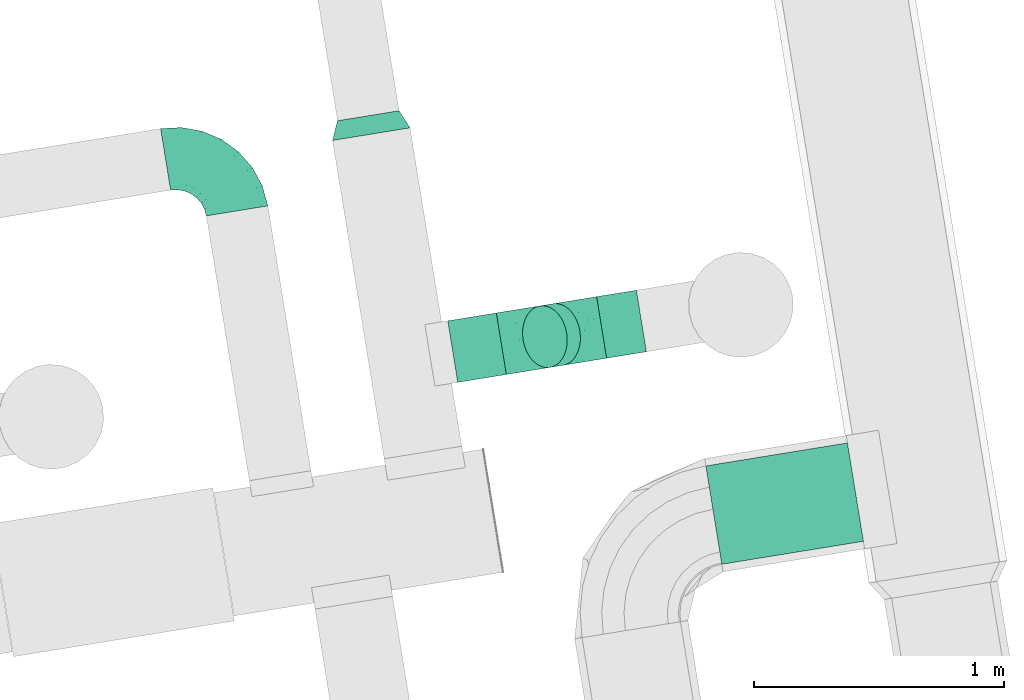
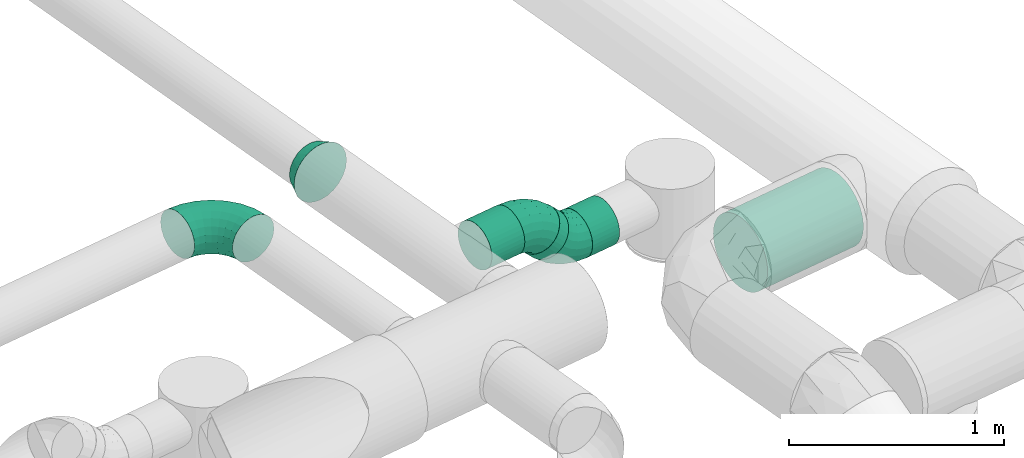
# One storey, part 22 of 39: 4 flow fittings, 4 flow segments.
"""IFC2X3 building model written with IfcOpenShell, lengths in millimetres."""

from ifc_helpers import new_model, entity, si_unit, converted_unit, derived_unit, direction, frame, frame_2d, origin, origin_with_axes, origin_2d_with_axis, place, context, subcontext, project, spatial, circle, extrude, faceted_brep, source, transform, mapped, material, type_object, element, save


model = new_model("IFC2X3")

# Units and contexts
model_context = context("Model", 3, precision=0.01, world=origin(), true_north=direction((6.12323399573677e-17, 1.0)))
plan_context = context("Plan", 3, precision=1e-05, world=origin_with_axes())
body_context = subcontext(model_context, "Body", "Model", "MODEL_VIEW")
ifc_project = project(units=[converted_unit("PLANEANGLEUNIT", "DEGREE", entity("IfcPositiveLengthMeasure", 0.0174532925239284), si_unit("PLANEANGLEUNIT", "RADIAN"), dimensions=[0, 0, 0, 0, 0, 0, 0]), si_unit("AREAUNIT", "SQUARE_METRE"), si_unit("LENGTHUNIT", "METRE", prefix="MILLI"), si_unit("MASSUNIT", "GRAM", prefix="KILO"), si_unit("POWERUNIT", "WATT"), si_unit("PRESSUREUNIT", "PASCAL", prefix="KILO"), si_unit("FORCEUNIT", "NEWTON", prefix="KILO"), si_unit("ELECTRICVOLTAGEUNIT", "VOLT"), si_unit("ELECTRICCURRENTUNIT", "AMPERE"), si_unit("THERMODYNAMICTEMPERATUREUNIT", "DEGREE_CELSIUS"), si_unit("TIMEUNIT", "SECOND"), si_unit("VOLUMEUNIT", "CUBIC_METRE"), derived_unit("LINEARVELOCITYUNIT", [(si_unit("LENGTHUNIT", "METRE"), 1), (si_unit("TIMEUNIT", "SECOND"), -1)]), derived_unit("VOLUMETRICFLOWRATEUNIT", [(si_unit("VOLUMEUNIT", "CUBIC_METRE"), 1), (si_unit("TIMEUNIT", "SECOND"), -1)]), derived_unit("THERMALTRANSMITTANCEUNIT", [(si_unit("POWERUNIT", "WATT"), 1), (si_unit("THERMODYNAMICTEMPERATUREUNIT", "KELVIN"), -1), (si_unit("AREAUNIT", "SQUARE_METRE"), -1)]), derived_unit("SOUNDPRESSUREUNIT", [(si_unit("PRESSUREUNIT", "PASCAL"), 1)])], contexts=[model_context, plan_context])

# Site, building, storey
site_placement = place(None, frame((-0.00071070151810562, 0.00438415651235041, 0.0), z_axis=(0.0, 0.0, 1.0), x_axis=(-0.160236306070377, 0.987078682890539, 0.0)))
site = spatial("IfcSite", under=ifc_project, at=site_placement, Name="Default", CompositionType="ELEMENT")
building_placement = place(site_placement, origin_with_axes())
building = spatial("IfcBuilding", under=site, at=building_placement, CompositionType="ELEMENT")
storey_placement = place(building_placement, frame((0.0, 0.0, 50999.9999999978), z_axis=(0.0, 0.0, 1.0), x_axis=(1.0, 0.0, 0.0)))
storey = spatial("IfcBuildingStorey", under=building, at=storey_placement, Name="Nivå D", CompositionType="ELEMENT", Elevation=50999.9999999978)

# Flow fittings
ifc_material_1 = material(Name="Material_Duct")
duct_fitting_type_1 = type_object("IfcDuctFittingType", Name="magicirc_reduction_001:magicirc_reduction_001", PredefinedType="NOTDEFINED", material=ifc_material_1)
shared_shape_1 = source(origin(), body_context, "Body", "Brep", [
    faceted_brep([(75.0, -125.0, 0.0), (75.0, -118.882064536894, -38.6271242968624), (75.0, -101.127124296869, -73.473156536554), (75.0, -73.4731565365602, -101.127124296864), (75.0, -38.627124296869, -118.882064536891), (75.0, 0.0, -125.0), (75.0, 38.6271242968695, -118.882064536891), (75.0, 73.4731565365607, -101.127124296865), (75.0, 101.12712429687, -73.4731565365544), (75.0, 118.882064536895, -38.6271242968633), (75.0, 125.0, 0.0), (75.0, 118.882064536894, 38.6271242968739), (75.0, 101.127124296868, 73.4731565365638), (75.0, 73.4731565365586, 101.127124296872), (75.0, 38.6271242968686, 118.882064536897), (75.0, 0.0, 125.0), (75.0, -38.6271242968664, 118.882064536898), (75.0, -73.4731565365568, 101.127124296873), (75.0, -101.127124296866, 73.4731565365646), (75.0, -118.882064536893, 38.6271242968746), (0.0, 157.499999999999, 0.0), (0.0, 152.133317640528, -40.7639996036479), (0.0, 136.399001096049, -78.7500000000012), (0.0, 111.369318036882, -111.369318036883), (0.0, 78.7500000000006, -136.399001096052), (0.0, 40.7639996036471, -152.133317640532), (0.0, 0.0, -157.500000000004), (0.0, -40.7639996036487, -152.133317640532), (0.0, -78.7500000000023, -136.399001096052), (0.0, -111.369318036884, -111.369318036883), (0.0, -136.399001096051, -78.7500000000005), (0.0, -152.133317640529, -40.7639996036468), (0.0, -157.500000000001, 0.0), (0.0, -152.133317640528, 40.7639996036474), (0.0, -136.399001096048, 78.7499999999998), (0.0, -111.36931803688, 111.36931803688), (0.0, -78.7499999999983, 136.399001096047), (0.0, -40.7639996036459, 152.133317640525), (0.0, 0.0, 157.499999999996), (0.0, 40.7639996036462, 152.133317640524), (0.0, 78.7499999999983, 136.399001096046), (0.0, 111.369318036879, 111.369318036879), (0.0, 136.399001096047, 78.7499999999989), (0.0, 152.133317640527, 40.7639996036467)], [[[0, 1, 2, 3, 4, 5, 6, 7, 8, 9, 10, 11, 12, 13, 14, 15, 16, 17, 18, 19]], [[20, 21, 22, 23, 24, 25, 26, 27, 28, 29, 30, 31, 32, 33, 34, 35, 36, 37, 38, 39, 40, 41, 42, 43]], [[22, 9, 8]], [[21, 10, 9]], [[24, 7, 6]], [[5, 25, 6]], [[8, 7, 23]], [[26, 25, 5]], [[9, 22, 21]], [[21, 20, 10]], [[8, 23, 22]], [[7, 24, 23]], [[24, 6, 25]], [[27, 5, 4]], [[3, 28, 4]], [[1, 0, 31]], [[2, 1, 30]], [[29, 3, 2]], [[28, 27, 4]], [[28, 3, 29]], [[2, 30, 29]], [[1, 31, 30]], [[32, 31, 0]], [[5, 27, 26]], [[34, 19, 18]], [[33, 0, 19]], [[36, 17, 16]], [[15, 37, 16]], [[18, 17, 35]], [[38, 37, 15]], [[19, 34, 33]], [[33, 32, 0]], [[18, 35, 34]], [[17, 36, 35]], [[36, 16, 37]], [[39, 15, 14]], [[13, 40, 14]], [[11, 10, 43]], [[12, 11, 42]], [[41, 13, 12]], [[40, 39, 14]], [[40, 13, 41]], [[12, 42, 41]], [[11, 43, 42]], [[20, 43, 10]], [[15, 39, 38]]]),
])
flow_fitting_1_placement = place(storey_placement, frame((774581.890918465, -600012.580498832, 3310.0), z_axis=(0.0, 0.0, 1.0), x_axis=(1.0, 0.0, 0.0)))
element("IfcFlowFitting", 1, at=flow_fitting_1_placement, inside=storey, type_object=duct_fitting_type_1, material=ifc_material_1, Name="magicirc_reduction_001:magicirc_reduction_001", ObjectType="magicirc_reduction_001:magicirc_reduction_001", context=body_context, shape_type="MappedRepresentation", body=[
    mapped(shared_shape_1, transform((0.0, 0.0, 0.0), scale=1.0)),
])
ifc_material_2 = material(Name="<Unnamed>")
duct_fitting_type_2 = type_object("IfcDuctFittingType", Name="magicirc_elbow_full_radius_1:magicirc_elbow_full_radius_001", PredefinedType="NOTDEFINED", material=ifc_material_2)
shared_shape_2 = source(origin(), body_context, "Body", "Brep", [
    faceted_brep([(-30.3945198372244, -117.794480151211, 0.0), (-31.5880698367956, -111.79409910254, 38.6271242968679), (-103.553390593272, -118.882064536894, 38.6271242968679), (-103.553390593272, -125.0, 0.0), (-35.0518868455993, -94.3803150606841, 73.4731565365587), (-103.553390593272, -101.127124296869, 73.4731565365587), (-40.4469083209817, -67.2577105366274, 101.127124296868), (-103.553390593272, -73.4731565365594, 101.127124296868), (-47.2450319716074, -33.0812350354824, 118.882064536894), (-103.553390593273, -38.6271242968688, 118.882064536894), (-54.7808100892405, 4.80367989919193, 125.0), (-103.553390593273, 0.0, 125.0), (-62.3165882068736, 42.6885948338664, 118.882064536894), (-103.553390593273, 38.6271242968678, 118.882064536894), (-69.1147118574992, 76.8650703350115, 101.127124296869), (-103.553390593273, 73.4731565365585, 101.127124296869), (-74.5097333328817, 103.987674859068, 73.4731565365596), (-103.553390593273, 101.127124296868, 73.4731565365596), (-77.9735503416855, 121.401458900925, 38.6271242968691), (-103.553390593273, 118.882064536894, 38.6271242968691), (-79.1671003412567, 127.401839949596, 0.0), (-103.553390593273, 125.0, 0.0), (-77.9735503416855, 121.401458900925, -38.6271242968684), (-103.553390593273, 118.882064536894, -38.6271242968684), (-74.5097333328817, 103.987674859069, -73.473156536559), (-103.553390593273, 101.127124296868, -73.473156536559), (-69.1147118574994, 76.8650703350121, -101.127124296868), (-103.553390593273, 73.4731565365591, -101.127124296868), (-62.3165882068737, 42.6885948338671, -118.882064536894), (-103.553390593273, 38.6271242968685, -118.882064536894), (-54.7808100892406, 4.80367989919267, -125.0), (-103.553390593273, 0.0, -125.0), (-47.2450319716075, -33.0812350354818, -118.882064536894), (-103.553390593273, -38.6271242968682, -118.882064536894), (-40.4469083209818, -67.2577105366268, -101.127124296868), (-103.553390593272, -73.4731565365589, -101.127124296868), (-35.0518868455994, -94.3803150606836, -73.4731565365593), (-103.553390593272, -101.127124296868, -73.4731565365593), (-31.5880698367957, -111.79409910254, -38.6271242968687), (-103.553390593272, -118.882064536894, -38.6271242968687), (39.952896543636, -96.4548246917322, 0.0), (37.6116640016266, -90.8025893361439, 38.6271242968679), (30.8171425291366, -74.3991634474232, 73.4731565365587), (20.2344272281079, -48.8502286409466, 101.127124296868), (6.89942800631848, -16.656692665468, 118.882064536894), (-7.88253250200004, 19.030116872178, 125.0), (-22.6644930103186, 54.7169264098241, 118.882064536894), (-35.9994922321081, 86.9104623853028, 101.127124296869), (-46.5822075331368, 112.45939719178, 73.4731565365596), (-53.376729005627, 128.862823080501, 38.6271242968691), (-55.7179615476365, 134.515058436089, 0.0), (-53.3767290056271, 128.862823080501, -38.6271242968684), (-46.582207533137, 112.45939719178, -73.473156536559), (-35.9994922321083, 86.9104623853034, -101.127124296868), (-22.6644930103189, 54.7169264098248, -118.882064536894), (-7.88253250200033, 19.0301168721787, -125.0), (6.89942800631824, -16.6566926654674, -118.882064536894), (20.2344272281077, -48.8502286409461, -101.127124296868), (30.8171425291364, -74.3991634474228, -73.4731565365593), (37.6116640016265, -90.8025893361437, -38.6271242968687), (104.785446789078, -61.801104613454, 0.0), (101.386503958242, -56.7142271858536, 38.6271242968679), (91.5223876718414, -41.9515339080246, 73.4731565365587), (76.1586663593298, -18.9581000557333, 101.127124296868), (56.7992481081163, 10.0153168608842, 118.882064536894), (35.3391676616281, 42.1325969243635, 125.0), (13.8790872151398, 74.2498769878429, 118.882064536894), (-5.48033103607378, 103.22329390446, 101.127124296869), (-20.8440523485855, 126.216727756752, 73.4731565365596), (-30.7081686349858, 140.979421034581, 38.6271242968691), (-34.1071114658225, 146.066298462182, 0.0), (-30.7081686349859, 140.979421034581, -38.6271242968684), (-20.8440523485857, 126.216727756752, -73.473156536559), (-5.48033103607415, 103.223293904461, -101.127124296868), (13.8790872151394, 74.2498769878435, -118.882064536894), (35.3391676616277, 42.1325969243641, -125.0), (56.799248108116, 10.0153168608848, -118.882064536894), (76.1586663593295, -18.9581000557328, -101.127124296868), (91.5223876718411, -41.9515339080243, -73.4731565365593), (101.386503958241, -56.7142271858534, -38.6271242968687), (161.611652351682, -15.1650429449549, 0.0), (157.285618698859, -10.8390092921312, 38.6271242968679), (144.730980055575, 1.7156293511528, 73.4731565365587), (125.176671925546, 21.2699374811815, 101.127124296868), (100.536806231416, 45.9098031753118, 118.882064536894), (73.2233047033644, 73.223304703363, 125.0), (45.9098031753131, 100.536806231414, 118.882064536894), (21.2699374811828, 125.176671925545, 101.127124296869), (1.71562935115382, 144.730980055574, 73.4731565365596), (-10.8390092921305, 157.285618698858, 38.6271242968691), (-15.1650429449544, 161.611652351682, 0.0), (-10.8390092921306, 157.285618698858, -38.6271242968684), (1.71562935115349, 144.730980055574, -73.473156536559), (21.2699374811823, 125.176671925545, -101.127124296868), (45.9098031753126, 100.536806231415, -118.882064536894), (73.2233047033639, 73.2233047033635, -125.0), (100.536806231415, 45.9098031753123, -118.882064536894), (125.176671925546, 21.269937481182, -101.127124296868), (144.730980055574, 1.71562935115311, -73.4731565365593), (157.285618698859, -10.8390092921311, -38.6271242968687)], [[[0, 1, 2, 3]], [[1, 4, 5, 2]], [[4, 6, 7, 5]], [[6, 8, 9, 7]], [[8, 10, 11, 9]], [[10, 12, 13, 11]], [[12, 14, 15, 13]], [[14, 16, 17, 15]], [[16, 18, 19, 17]], [[18, 20, 21, 19]], [[20, 22, 23, 21]], [[22, 24, 25, 23]], [[24, 26, 27, 25]], [[26, 28, 29, 27]], [[28, 30, 31, 29]], [[30, 32, 33, 31]], [[32, 34, 35, 33]], [[34, 36, 37, 35]], [[36, 38, 39, 37]], [[38, 0, 3, 39]], [[40, 41, 1, 0]], [[41, 42, 4, 1]], [[42, 43, 6, 4]], [[43, 44, 8, 6]], [[44, 45, 10, 8]], [[45, 46, 12, 10]], [[46, 47, 14, 12]], [[47, 48, 16, 14]], [[48, 49, 18, 16]], [[49, 50, 20, 18]], [[50, 51, 22, 20]], [[51, 52, 24, 22]], [[52, 53, 26, 24]], [[53, 54, 28, 26]], [[54, 55, 30, 28]], [[55, 56, 32, 30]], [[56, 57, 34, 32]], [[57, 58, 36, 34]], [[58, 59, 38, 36]], [[59, 40, 0, 38]], [[60, 61, 41, 40]], [[61, 62, 42, 41]], [[62, 63, 43, 42]], [[63, 64, 44, 43]], [[64, 65, 45, 44]], [[65, 66, 46, 45]], [[66, 67, 47, 46]], [[67, 68, 48, 47]], [[68, 69, 49, 48]], [[69, 70, 50, 49]], [[70, 71, 51, 50]], [[71, 72, 52, 51]], [[72, 73, 53, 52]], [[73, 74, 54, 53]], [[74, 75, 55, 54]], [[75, 76, 56, 55]], [[76, 77, 57, 56]], [[77, 78, 58, 57]], [[78, 79, 59, 58]], [[79, 60, 40, 59]], [[80, 81, 61, 60]], [[81, 82, 62, 61]], [[82, 83, 63, 62]], [[83, 84, 64, 63]], [[84, 85, 65, 64]], [[85, 86, 66, 65]], [[86, 87, 67, 66]], [[87, 88, 68, 67]], [[88, 89, 69, 68]], [[89, 90, 70, 69]], [[90, 91, 71, 70]], [[91, 92, 72, 71]], [[92, 93, 73, 72]], [[93, 94, 74, 73]], [[94, 95, 75, 74]], [[95, 96, 76, 75]], [[96, 97, 77, 76]], [[97, 98, 78, 77]], [[98, 99, 79, 78]], [[99, 80, 60, 79]], [[3, 2, 5, 7, 9, 11, 13, 15, 17, 19, 21, 23, 25, 27, 29, 31, 33, 35, 37, 39]], [[99, 98, 97, 96, 95, 94, 93, 92, 91, 90, 89, 88, 87, 86, 85, 84, 83, 82, 81, 80]]]),
])
for number, where, z_axis, x_axis, name in (
    (2, (773669.479289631, -600695.985577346, 3110.0), (1.0, 0.0, 0.0), (0.0, 1.0, 0.0), "magicirc_elbow_full_radius_1:magicirc_elbow_full_radius_001"),
    (3, (773669.479289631, -600495.985577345, 3310.0), (-1.0, 9.81307786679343e-18, 9.81307786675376e-18), (1.38777878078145e-17, 0.707106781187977, 0.707106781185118), "magicirc_elbow_full_radius_1:magicirc_elbow_full_radius_001"),
):
    element("IfcFlowFitting", number, at=place(storey_placement, frame(where, z_axis=z_axis, x_axis=x_axis)), inside=storey, type_object=duct_fitting_type_2, material=ifc_material_2, Name=name, ObjectType="magicirc_elbow_full_radius_1:magicirc_elbow_full_radius_001", context=body_context, shape_type="MappedRepresentation", body=[
        mapped(shared_shape_2, transform((0.0, 0.0, 0.0), scale=1.0)),
    ])
duct_fitting_type_3 = type_object("IfcDuctFittingType", Name="magicirc_elbow_full_radius_1:magicirc_elbow_full_radius_001", PredefinedType="NOTDEFINED", material=ifc_material_2)
shared_shape_3 = source(origin(), body_context, "Body", "Brep", [
    faceted_brep([(-166.554649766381, -115.597967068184, 0.0), (-167.916018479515, -109.633421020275, 38.6271242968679), (-250.0, -118.882064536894, 38.6271242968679), (-250.0, -125.0, 0.0), (-171.866864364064, -92.3236342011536, 73.4731565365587), (-250.0, -101.127124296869, 73.4731565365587), (-178.020451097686, -65.363009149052, 101.127124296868), (-250.0, -73.4731565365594, 101.127124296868), (-185.774422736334, -31.3906396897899, 118.882064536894), (-250.0, -38.6271242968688, 118.882064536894), (-194.36976651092, 6.26802195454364, 125.0), (-250.0, 0.0, 125.0), (-202.965110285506, 43.9266835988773, 118.882064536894), (-250.0, 38.6271242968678, 118.882064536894), (-210.719081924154, 77.8990530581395, 101.127124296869), (-250.0, 73.4731565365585, 101.127124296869), (-216.872668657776, 104.859678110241, 73.4731565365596), (-250.0, 101.127124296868, 73.4731565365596), (-220.823514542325, 122.169464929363, 38.6271242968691), (-250.0, 118.882064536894, 38.6271242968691), (-222.18488325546, 128.134010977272, 0.0), (-250.0, 125.0, 0.0), (-220.823514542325, 122.169464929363, -38.6271242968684), (-250.0, 118.882064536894, -38.6271242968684), (-216.872668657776, 104.859678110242, -73.473156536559), (-250.0, 101.127124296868, -73.473156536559), (-210.719081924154, 77.8990530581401, -101.127124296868), (-250.0, 73.4731565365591, -101.127124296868), (-202.965110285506, 43.926683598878, -118.882064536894), (-250.0, 38.6271242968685, -118.882064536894), (-194.36976651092, 6.26802195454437, -125.0), (-250.0, 0.0, -125.0), (-185.774422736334, -31.3906396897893, -118.882064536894), (-250.0, -38.6271242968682, -118.882064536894), (-178.020451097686, -65.3630091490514, -101.127124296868), (-250.0, -73.4731565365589, -101.127124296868), (-171.866864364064, -92.3236342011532, -73.4731565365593), (-250.0, -101.127124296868, -73.4731565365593), (-167.916018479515, -109.633421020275, -38.6271242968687), (-250.0, -118.882064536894, -38.6271242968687), (-87.2935978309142, -87.8633254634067, 0.0), (-89.9480705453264, -82.3512560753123, 38.6271242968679), (-97.6516504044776, -66.3546076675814, 73.4731565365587), (-109.650257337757, -41.4392436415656, 101.127124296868), (-124.769384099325, -10.0440534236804, 118.882064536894), (-141.529065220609, 24.7577830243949, 125.0), (-158.288746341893, 59.5596194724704, 118.882064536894), (-173.407873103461, 90.9548096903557, 101.127124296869), (-185.406480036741, 115.870173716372, 73.4731565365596), (-193.110059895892, 131.866822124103, 38.6271242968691), (-195.764532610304, 137.378891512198, 0.0), (-193.110059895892, 131.866822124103, -38.6271242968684), (-185.406480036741, 115.870173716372, -73.473156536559), (-173.407873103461, 90.9548096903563, -101.127124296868), (-158.288746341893, 59.5596194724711, -118.882064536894), (-141.529065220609, 24.7577830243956, -125.0), (-124.769384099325, -10.0440534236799, -118.882064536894), (-109.650257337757, -41.4392436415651, -101.127124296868), (-97.6516504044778, -66.354607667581, -73.4731565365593), (-89.9480705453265, -82.3512560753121, -38.6271242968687), (-16.1913243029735, -43.1868059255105, 0.0), (-20.0057946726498, -38.4036113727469, 38.6271242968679), (-31.0758188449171, -24.5222401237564, 73.4731565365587), (-48.3177857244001, -2.90149751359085, 101.127124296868), (-70.0439314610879, 24.3422275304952, 118.882064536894), (-94.127549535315, 54.5421293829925, 125.0), (-118.211167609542, 84.7420312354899, 118.882064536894), (-139.93731334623, 111.985756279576, 101.127124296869), (-157.179280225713, 133.606498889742, 73.4731565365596), (-168.249304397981, 147.487870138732, 38.6271242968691), (-172.063774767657, 152.271064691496, 0.0), (-168.249304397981, 147.487870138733, -38.6271242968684), (-157.179280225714, 133.606498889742, -73.473156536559), (-139.937313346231, 111.985756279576, -101.127124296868), (-118.211167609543, 84.7420312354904, -118.882064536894), (-94.1275495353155, 54.5421293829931, -125.0), (-70.0439314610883, 24.3422275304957, -118.882064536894), (-48.3177857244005, -2.9014975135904, -101.127124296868), (-31.0758188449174, -24.5222401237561, -73.4731565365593), (-20.00579467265, -38.4036113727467, -38.6271242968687), (43.1868059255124, 16.1913243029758, 0.0), (38.4036113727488, 20.005794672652, 38.6271242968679), (24.5222401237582, 31.0758188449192, 73.4731565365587), (2.9014975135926, 48.3177857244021, 101.127124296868), (-24.3422275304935, 70.0439314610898, 118.882064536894), (-54.5421293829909, 94.1275495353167, 125.0), (-84.7420312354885, 118.211167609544, 118.882064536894), (-111.985756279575, 139.937313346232, 101.127124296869), (-133.60649888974, 157.179280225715, 73.4731565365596), (-147.487870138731, 168.249304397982, 38.6271242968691), (-152.271064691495, 172.063774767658, 0.0), (-147.487870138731, 168.249304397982, -38.6271242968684), (-133.606498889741, 157.179280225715, -73.473156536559), (-111.985756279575, 139.937313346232, -101.127124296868), (-84.742031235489, 118.211167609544, -118.882064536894), (-54.5421293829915, 94.1275495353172, -125.0), (-24.342227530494, 70.0439314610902, -118.882064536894), (2.90149751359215, 48.3177857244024, -101.127124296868), (24.5222401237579, 31.0758188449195, -73.4731565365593), (38.4036113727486, 20.0057946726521, -38.6271242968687), (87.8633254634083, 87.2935978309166, 0.0), (82.3512560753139, 89.9480705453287, 38.6271242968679), (66.3546076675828, 97.6516504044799, 73.4731565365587), (41.4392436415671, 109.650257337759, 101.127124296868), (10.0440534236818, 124.769384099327, 118.882064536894), (-24.7577830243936, 141.529065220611, 125.0), (-59.5596194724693, 158.288746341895, 118.882064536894), (-90.9548096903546, 173.407873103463, 101.127124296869), (-115.870173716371, 185.406480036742, 73.4731565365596), (-131.866822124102, 193.110059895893, 38.6271242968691), (-137.378891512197, 195.764532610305, 0.0), (-131.866822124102, 193.110059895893, -38.6271242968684), (-115.870173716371, 185.406480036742, -73.473156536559), (-90.9548096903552, 173.407873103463, -101.127124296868), (-59.5596194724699, 158.288746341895, -118.882064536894), (-24.7577830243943, 141.529065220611, -125.0), (10.0440534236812, 124.769384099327, -118.882064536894), (41.4392436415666, 109.650257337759, -101.127124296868), (66.3546076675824, 97.65165040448, -73.4731565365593), (82.3512560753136, 89.9480705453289, -38.6271242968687), (115.597967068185, 166.554649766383, 0.0), (109.633421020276, 167.916018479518, 38.6271242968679), (92.3236342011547, 171.866864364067, 73.4731565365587), (65.3630091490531, 178.020451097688, 101.127124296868), (31.390639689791, 185.774422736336, 118.882064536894), (-6.26802195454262, 194.369766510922, 125.0), (-43.9266835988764, 202.965110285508, 118.882064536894), (-77.8990530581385, 210.719081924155, 101.127124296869), (-104.85967811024, 216.872668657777, 73.4731565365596), (-122.169464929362, 220.823514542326, 38.6271242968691), (-128.134010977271, 222.184883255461, 0.0), (-122.169464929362, 220.823514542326, -38.6271242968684), (-104.859678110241, 216.872668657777, -73.473156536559), (-77.8990530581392, 210.719081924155, -101.127124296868), (-43.926683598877, 202.965110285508, -118.882064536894), (-6.26802195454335, 194.369766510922, -125.0), (31.3906396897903, 185.774422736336, -118.882064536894), (65.3630091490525, 178.020451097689, -101.127124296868), (92.3236342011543, 171.866864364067, -73.4731565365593), (109.633421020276, 167.916018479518, -38.6271242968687), (125.0, 250.0, 0.0), (118.882064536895, 250.0, 38.6271242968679), (101.127124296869, 250.0, 73.4731565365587), (73.4731565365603, 250.0, 101.127124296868), (38.6271242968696, 250.0, 118.882064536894), (0.0, 250.0, 125.0), (-38.627124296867, 250.0, 118.882064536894), (-73.4731565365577, 250.0, 101.127124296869), (-101.127124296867, 250.0, 73.4731565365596), (-118.882064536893, 250.0, 38.6271242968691), (-125.0, 250.0, 0.0), (-118.882064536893, 250.0, -38.6271242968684), (-101.127124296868, 250.0, -73.473156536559), (-73.4731565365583, 250.0, -101.127124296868), (-38.6271242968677, 250.0, -118.882064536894), (0.0, 250.0, -125.0), (38.627124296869, 250.0, -118.882064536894), (73.4731565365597, 250.0, -101.127124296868), (101.127124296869, 250.0, -73.4731565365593), (118.882064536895, 250.0, -38.6271242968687)], [[[0, 1, 2, 3]], [[1, 4, 5, 2]], [[4, 6, 7, 5]], [[6, 8, 9, 7]], [[8, 10, 11, 9]], [[10, 12, 13, 11]], [[12, 14, 15, 13]], [[14, 16, 17, 15]], [[16, 18, 19, 17]], [[18, 20, 21, 19]], [[20, 22, 23, 21]], [[22, 24, 25, 23]], [[24, 26, 27, 25]], [[26, 28, 29, 27]], [[28, 30, 31, 29]], [[30, 32, 33, 31]], [[32, 34, 35, 33]], [[34, 36, 37, 35]], [[36, 38, 39, 37]], [[38, 0, 3, 39]], [[40, 41, 1, 0]], [[41, 42, 4, 1]], [[42, 43, 6, 4]], [[43, 44, 8, 6]], [[44, 45, 10, 8]], [[45, 46, 12, 10]], [[46, 47, 14, 12]], [[47, 48, 16, 14]], [[48, 49, 18, 16]], [[49, 50, 20, 18]], [[50, 51, 22, 20]], [[51, 52, 24, 22]], [[52, 53, 26, 24]], [[53, 54, 28, 26]], [[54, 55, 30, 28]], [[55, 56, 32, 30]], [[56, 57, 34, 32]], [[57, 58, 36, 34]], [[58, 59, 38, 36]], [[59, 40, 0, 38]], [[60, 61, 41, 40]], [[61, 62, 42, 41]], [[62, 63, 43, 42]], [[63, 64, 44, 43]], [[64, 65, 45, 44]], [[65, 66, 46, 45]], [[66, 67, 47, 46]], [[67, 68, 48, 47]], [[68, 69, 49, 48]], [[69, 70, 50, 49]], [[70, 71, 51, 50]], [[71, 72, 52, 51]], [[72, 73, 53, 52]], [[73, 74, 54, 53]], [[74, 75, 55, 54]], [[75, 76, 56, 55]], [[76, 77, 57, 56]], [[77, 78, 58, 57]], [[78, 79, 59, 58]], [[79, 60, 40, 59]], [[80, 81, 61, 60]], [[81, 82, 62, 61]], [[82, 83, 63, 62]], [[83, 84, 64, 63]], [[84, 85, 65, 64]], [[85, 86, 66, 65]], [[86, 87, 67, 66]], [[87, 88, 68, 67]], [[88, 89, 69, 68]], [[89, 90, 70, 69]], [[90, 91, 71, 70]], [[91, 92, 72, 71]], [[92, 93, 73, 72]], [[93, 94, 74, 73]], [[94, 95, 75, 74]], [[95, 96, 76, 75]], [[96, 97, 77, 76]], [[97, 98, 78, 77]], [[98, 99, 79, 78]], [[99, 80, 60, 79]], [[100, 101, 81, 80]], [[101, 102, 82, 81]], [[102, 103, 83, 82]], [[103, 104, 84, 83]], [[104, 105, 85, 84]], [[105, 106, 86, 85]], [[106, 107, 87, 86]], [[107, 108, 88, 87]], [[108, 109, 89, 88]], [[109, 110, 90, 89]], [[110, 111, 91, 90]], [[111, 112, 92, 91]], [[112, 113, 93, 92]], [[113, 114, 94, 93]], [[114, 115, 95, 94]], [[115, 116, 96, 95]], [[116, 117, 97, 96]], [[117, 118, 98, 97]], [[118, 119, 99, 98]], [[119, 100, 80, 99]], [[120, 121, 101, 100]], [[121, 122, 102, 101]], [[122, 123, 103, 102]], [[123, 124, 104, 103]], [[124, 125, 105, 104]], [[125, 126, 106, 105]], [[126, 127, 107, 106]], [[127, 128, 108, 107]], [[128, 129, 109, 108]], [[129, 130, 110, 109]], [[130, 131, 111, 110]], [[131, 132, 112, 111]], [[132, 133, 113, 112]], [[133, 134, 114, 113]], [[134, 135, 115, 114]], [[135, 136, 116, 115]], [[136, 137, 117, 116]], [[137, 138, 118, 117]], [[138, 139, 119, 118]], [[139, 120, 100, 119]], [[140, 141, 121, 120]], [[141, 142, 122, 121]], [[142, 143, 123, 122]], [[143, 144, 124, 123]], [[144, 145, 125, 124]], [[145, 146, 126, 125]], [[146, 147, 127, 126]], [[147, 148, 128, 127]], [[148, 149, 129, 128]], [[149, 150, 130, 129]], [[150, 151, 131, 130]], [[151, 152, 132, 131]], [[152, 153, 133, 132]], [[153, 154, 134, 133]], [[154, 155, 135, 134]], [[155, 156, 136, 135]], [[156, 157, 137, 136]], [[157, 158, 138, 137]], [[158, 159, 139, 138]], [[159, 140, 120, 139]], [[3, 2, 5, 7, 9, 11, 13, 15, 17, 19, 21, 23, 25, 27, 29, 31, 33, 35, 37, 39]], [[159, 158, 157, 156, 155, 154, 153, 152, 151, 150, 149, 148, 147, 146, 145, 144, 143, 142, 141, 140]]]),
])
flow_fitting_2_placement = place(storey_placement, frame((774614.47928963, -599432.555921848, 3310.0), z_axis=(0.0, 0.0, 1.0), x_axis=(1.0, 0.0, 0.0)))
element("IfcFlowFitting", 4, at=flow_fitting_2_placement, inside=storey, type_object=duct_fitting_type_3, material=ifc_material_2, Name="magicirc_elbow_full_radius_1:magicirc_elbow_full_radius_001", ObjectType="magicirc_elbow_full_radius_1:magicirc_elbow_full_radius_001", context=body_context, shape_type="MappedRepresentation", body=[
    mapped(shared_shape_3, transform((0.0, 0.0, 0.0), scale=1.0)),
])

# Flow segments
duct_segment_type = type_object("IfcDuctSegmentType", Name="Round Duct:KK001T - Spiro kanaler, Forsinket stål", PredefinedType="NOTDEFINED")
flow_segment_1_placement = place(storey_placement, origin_with_axes())
element("IfcFlowSegment", 5, at=flow_segment_1_placement, inside=storey, type_object=duct_segment_type, Name="Round Duct:KK001T - Spiro kanaler, Forsinket stål", ObjectType="Round Duct:KK001T - Spiro kanaler, Forsinket stål", context=body_context, shape_type="SweptSolid", body=[
    extrude(circle(Radius=200.0, at=origin_2d_with_axis()), frame((772854.832653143, -601697.905078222, 3300.0), z_axis=(0.0, 1.0, 0.0), x_axis=(1.0, 0.0, 0.0)), (0.0, 0.0, 1.0), 574.999999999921),
])
flow_segment_2_placement = place(storey_placement, origin_with_axes())
element("IfcFlowSegment", 6, at=flow_segment_2_placement, inside=storey, type_object=duct_segment_type, Name="Round Duct:KK001T - Spiro kanaler, Forsinket stål", ObjectType="Round Duct:KK001T - Spiro kanaler, Forsinket stål", context=body_context, shape_type="SweptSolid", body=[
    extrude(circle(Radius=125.0, at=frame_2d((0.0, -8.66293703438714e-12), x_axis=(1.0, 0.0))), frame((773669.47928963, -600961.085577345, 3110.0), z_axis=(0.0, 1.0, 0.0), x_axis=(1.0, 0.0, 0.0)), (0.0, 0.0, 1.0), 161.546609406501),
])
flow_segment_3_placement = place(storey_placement, origin_with_axes())
element("IfcFlowSegment", 7, at=flow_segment_3_placement, inside=storey, type_object=duct_segment_type, Name="Round Duct:KK001T - Spiro kanaler, Forsinket stål", ObjectType="Round Duct:KK001T - Spiro kanaler, Forsinket stål", context=body_context, shape_type="SweptSolid", body=[
    extrude(circle(Radius=125.0, at=frame_2d((2.04390155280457e-23, -9.80099443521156e-11), x_axis=(1.0, 0.0))), frame((773669.47928963, -600622.762272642, 3183.22330470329), z_axis=(0.0, 0.707106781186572, 0.707106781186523), x_axis=(-1.0, 0.0, 0.0)), (0.0, 0.0, 1.0), 75.7359312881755),
])
flow_segment_4_placement = place(storey_placement, origin_with_axes())
element("IfcFlowSegment", 8, at=flow_segment_4_placement, inside=storey, type_object=duct_segment_type, Name="Round Duct:KK001T - Spiro kanaler, Forsinket stål", ObjectType="Round Duct:KK001T - Spiro kanaler, Forsinket stål", context=body_context, shape_type="SweptSolid", body=[
    extrude(circle(Radius=125.0, at=frame_2d((0.0, 8.66293703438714e-12), x_axis=(1.0, 0.0))), frame((773669.47928963, -600392.432186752, 3310.0), z_axis=(0.0, 1.0, 0.0), x_axis=(-1.0, 0.0, 0.0)), (0.0, 0.0, 1.0), 197.351687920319),
])

save(model, "model.ifc")
